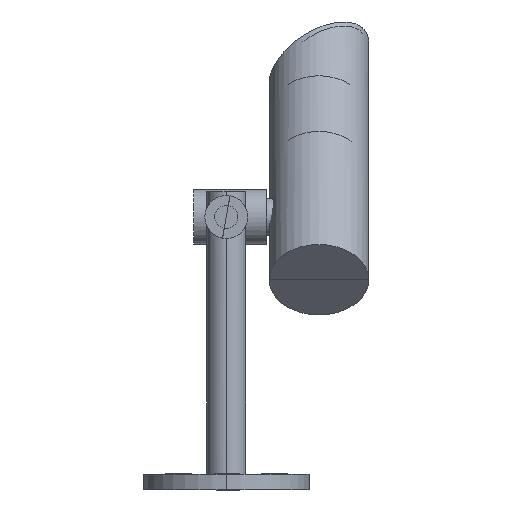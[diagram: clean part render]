
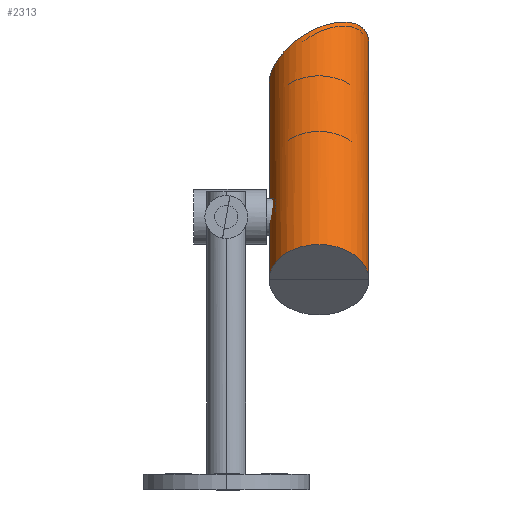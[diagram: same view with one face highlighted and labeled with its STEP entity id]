
A CAD part, left-side view. The second image highlights one B-rep face of the part: STEP entity #2313.
In plain terms, the highlighted cylindrical face has radius 17.994 mm (diameter 35.987 mm), a partial arc.
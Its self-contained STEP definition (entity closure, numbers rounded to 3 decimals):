
#68=ELLIPSE('',#2776,20.777,17.994);
#306=FACE_OUTER_BOUND('',#510,.T.);
#510=EDGE_LOOP('',(#1769,#1770,#1771,#1772));
#687=LINE('',#4463,#843);
#688=LINE('',#4464,#844);
#843=VECTOR('',#3370,304.8);
#844=VECTOR('',#3371,304.8);
#1015=VERTEX_POINT('',#4451);
#1016=VERTEX_POINT('',#4452);
#1019=VERTEX_POINT('',#4460);
#1020=VERTEX_POINT('',#4461);
#1269=EDGE_CURVE('',#1015,#1016,#68,.T.);
#1274=EDGE_CURVE('',#1016,#1019,#687,.T.);
#1275=EDGE_CURVE('',#1020,#1015,#688,.T.);
#1276=EDGE_CURVE('',#1020,#1019,#2536,.T.);
#1769=ORIENTED_EDGE('',*,*,#1276,.F.);
#1770=ORIENTED_EDGE('',*,*,#1275,.T.);
#1771=ORIENTED_EDGE('',*,*,#1269,.T.);
#1772=ORIENTED_EDGE('',*,*,#1274,.T.);
#2186=CYLINDRICAL_SURFACE('',#2782,17.994);
#2313=ADVANCED_FACE('',(#306),#2186,.T.);
#2536=CIRCLE('',#2783,17.994);
#2776=AXIS2_PLACEMENT_3D('',#4453,#3358,#3359);
#2782=AXIS2_PLACEMENT_3D('',#4465,#3372,#3373);
#2783=AXIS2_PLACEMENT_3D('',#4466,#3374,#3375);
#3358=DIRECTION('center_axis',(-0.612,-0.5,-0.612));
#3359=DIRECTION('ref_axis',(0.354,-0.866,0.354));
#3370=DIRECTION('',(-0.707,0.,-0.707));
#3371=DIRECTION('',(0.707,0.,0.707));
#3372=DIRECTION('center_axis',(-0.707,0.,
-0.707));
#3373=DIRECTION('ref_axis',(0.,-1.,0.));
#3374=DIRECTION('center_axis',(-0.707,0.,
-0.707));
#3375=DIRECTION('ref_axis',(0.,-1.,0.));
#4451=CARTESIAN_POINT('',(-269.683,-51.456,161.673));
#4452=CARTESIAN_POINT('',(-284.375,-15.468,146.982));
#4453=CARTESIAN_POINT('Origin',(-277.029,-33.462,154.328));
#4460=CARTESIAN_POINT('',(-355.411,-15.468,75.946));
#4461=CARTESIAN_POINT('',(-355.411,-51.456,75.946));
#4463=CARTESIAN_POINT('',(-284.375,-15.468,146.982));
#4464=CARTESIAN_POINT('',(-355.411,-51.456,75.946));
#4465=CARTESIAN_POINT('Origin',(-299.344,-33.462,132.013));
#4466=CARTESIAN_POINT('Origin',(-355.411,-33.462,75.946));
